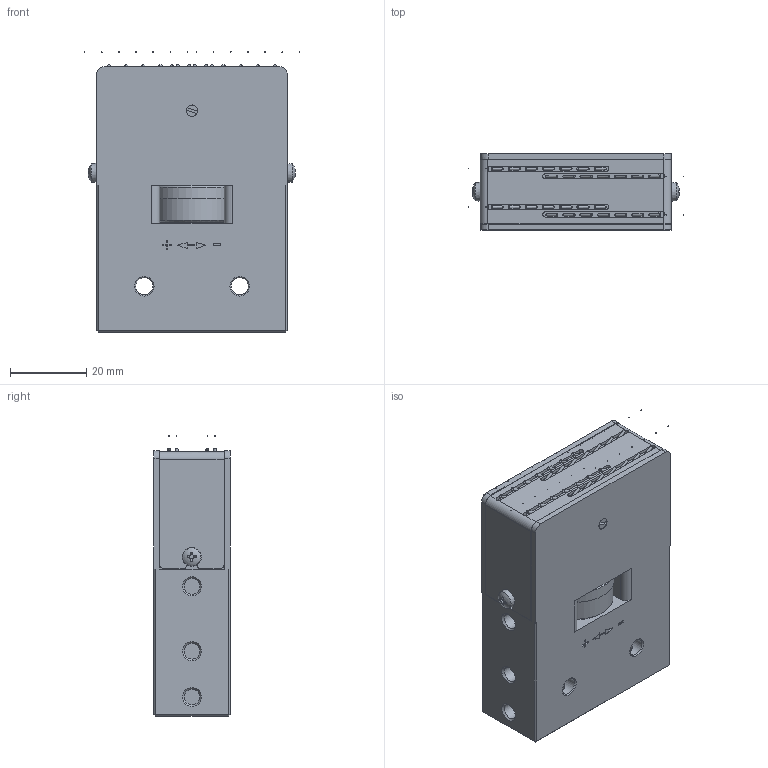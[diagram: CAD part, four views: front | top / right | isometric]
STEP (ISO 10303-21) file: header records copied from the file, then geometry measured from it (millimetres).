
FILE_DESCRIPTION(/* description */ (''),/* implementation_level */ '2;1');
FILE_NAME(/* name */ 'NHA-4.stp',/* time_stamp */ '2026-09-09T15:19:08+02:00',/* author */ ('Jensen'),/* organization */ (''),/* preprocessor_version */ 'ST-DEVELOPER v20.1',/* originating_system */ 'Autodesk Inventor 2026',/* authorisation */ '');
FILE_SCHEMA (('AUTOMOTIVE_DESIGN { 1 0 10303 214 3 1 1 }'));
Length unit declared in the file: millimetre
Products named in the file (1): NHA-4
Bounding box: 56.49 x 20 x 73.41 mm (x, y, z)
Volume: 66869.8 mm3; surface area: 17048.7 mm2
Topology: 1 solids, 1 shells, 334 faces, 926 edges, 597 vertices
Faces by surface type: plane 164, cylinder 89, cone 49, bspline 28, sphere 2, torus 2
Full cylindrical faces by diameter (mm): 0.71 x28, 2.275 x2, 2.5 x2, 3 x1, 3.242 x4, 4.134 x3, 4.5 x2, 11 x1, 16.6 x1
Entity records: 11909 total; most frequent: CARTESIAN_POINT 2866, DIRECTION 1829, ORIENTED_EDGE 1796, EDGE_CURVE 898, AXIS2_PLACEMENT_3D 656, VERTEX_POINT 597, LINE 517, VECTOR 517
